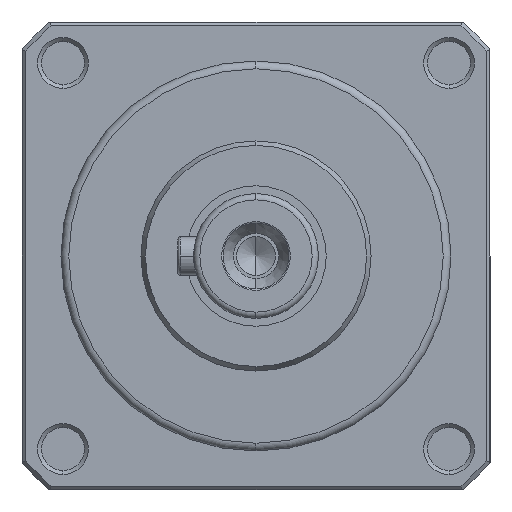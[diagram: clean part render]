
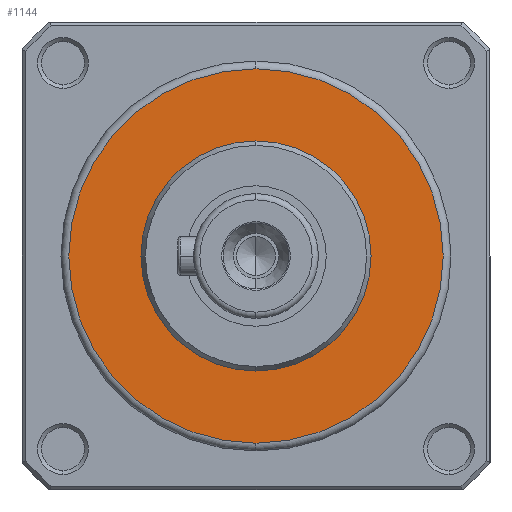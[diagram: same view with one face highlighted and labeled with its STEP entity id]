
A CAD part, left-side view. The second image highlights one B-rep face of the part: STEP entity #1144.
In plain terms, the highlighted planar face has unit normal (-1, 0, 0).
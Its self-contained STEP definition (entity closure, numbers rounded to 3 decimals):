
#59 = CIRCLE ( 'NONE', #6497, 14.75 ) ;
#996 = CARTESIAN_POINT ( 'NONE',  ( -136.22, 27.079, -24. ) ) ;
#1004 = ORIENTED_EDGE ( 'NONE', *, *, #5361, .T. ) ;
#1047 = DIRECTION ( 'NONE',  ( 0., 0., -1. ) ) ;
#1130 = FACE_BOUND ( 'NONE', #5400, .T. ) ;
#1136 = DIRECTION ( 'NONE',  ( -1., 0., 0. ) ) ;
#1144 = ADVANCED_FACE ( 'NONE', ( #5434, #1130 ), #8199, .F. ) ;
#1366 = VERTEX_POINT ( 'NONE', #4933 ) ;
#1388 = EDGE_CURVE ( 'NONE', #1366, #7014, #3067, .T. ) ;
#1468 = VERTEX_POINT ( 'NONE', #6516 ) ;
#1622 = CARTESIAN_POINT ( 'NONE',  ( -136.22, 27.079, 0. ) ) ;
#1761 = DIRECTION ( 'NONE',  ( -1., 0., 0. ) ) ;
#1858 = DIRECTION ( 'NONE',  ( 0., 0., -1. ) ) ;
#1966 = ORIENTED_EDGE ( 'NONE', *, *, #1388, .F. ) ;
#2003 = AXIS2_PLACEMENT_3D ( 'NONE', #5462, #1761, #1858 ) ;
#2159 = CARTESIAN_POINT ( 'NONE',  ( -136.22, 27.079, 0. ) ) ;
#2537 = CIRCLE ( 'NONE', #3592, 24. ) ;
#2599 = EDGE_CURVE ( 'NONE', #1468, #3247, #4622, .T. ) ;
#3067 = CIRCLE ( 'NONE', #4329, 14.75 ) ;
#3247 = VERTEX_POINT ( 'NONE', #996 ) ;
#3581 = DIRECTION ( 'NONE',  ( 0., 0., 1. ) ) ;
#3592 = AXIS2_PLACEMENT_3D ( 'NONE', #1622, #1136, #1047 ) ;
#3802 = ORIENTED_EDGE ( 'NONE', *, *, #7228, .F. ) ;
#4190 = ORIENTED_EDGE ( 'NONE', *, *, #2599, .T. ) ;
#4329 = AXIS2_PLACEMENT_3D ( 'NONE', #7849, #7884, #3581 ) ;
#4560 = DIRECTION ( 'NONE',  ( 1., 0., 0. ) ) ;
#4622 = CIRCLE ( 'NONE', #2003, 24. ) ;
#4933 = CARTESIAN_POINT ( 'NONE',  ( -136.22, 27.079, 14.75 ) ) ;
#5277 = DIRECTION ( 'NONE',  ( 0., 0., -1. ) ) ;
#5361 = EDGE_CURVE ( 'NONE', #3247, #1468, #2537, .T. ) ;
#5400 = EDGE_LOOP ( 'NONE', ( #1966, #3802 ) ) ;
#5434 = FACE_OUTER_BOUND ( 'NONE', #5524, .T. ) ;
#5462 = CARTESIAN_POINT ( 'NONE',  ( -136.22, 27.079, 0. ) ) ;
#5524 = EDGE_LOOP ( 'NONE', ( #1004, #4190 ) ) ;
#5695 = DIRECTION ( 'NONE',  ( 0., 0., 1. ) ) ;
#6497 = AXIS2_PLACEMENT_3D ( 'NONE', #2159, #7204, #5695 ) ;
#6516 = CARTESIAN_POINT ( 'NONE',  ( -136.22, 27.079, 24. ) ) ;
#7014 = VERTEX_POINT ( 'NONE', #9127 ) ;
#7204 = DIRECTION ( 'NONE',  ( -1., 0., 0. ) ) ;
#7228 = EDGE_CURVE ( 'NONE', #7014, #1366, #59, .T. ) ;
#7849 = CARTESIAN_POINT ( 'NONE',  ( -136.22, 27.079, 0. ) ) ;
#7884 = DIRECTION ( 'NONE',  ( -1., 0., 0. ) ) ;
#8159 = CARTESIAN_POINT ( 'NONE',  ( -136.22, 41.829, 0. ) ) ;
#8199 = PLANE ( 'NONE',  #8850 ) ;
#8850 = AXIS2_PLACEMENT_3D ( 'NONE', #8159, #4560, #5277 ) ;
#9127 = CARTESIAN_POINT ( 'NONE',  ( -136.22, 27.079, -14.75 ) ) ;
